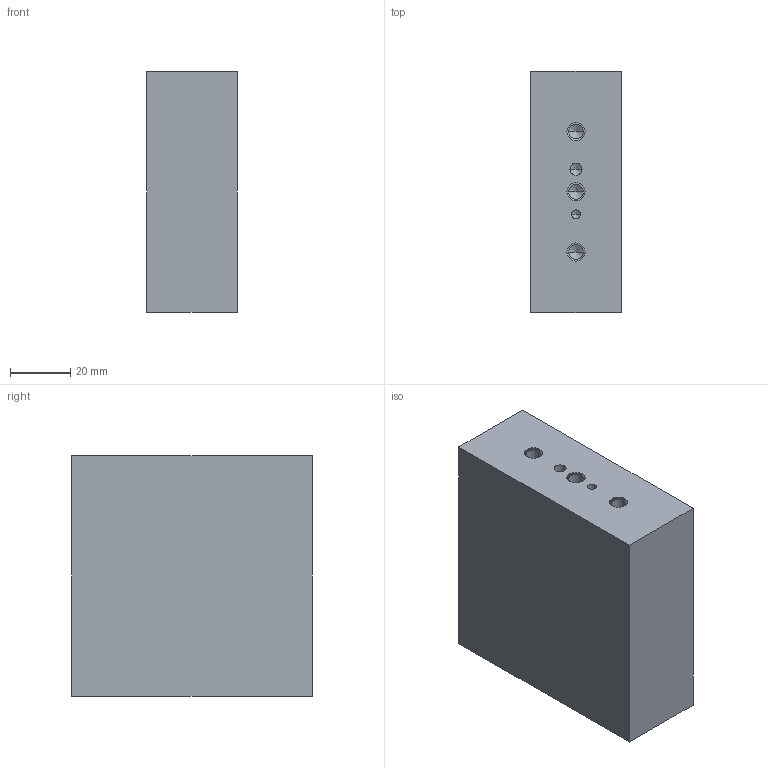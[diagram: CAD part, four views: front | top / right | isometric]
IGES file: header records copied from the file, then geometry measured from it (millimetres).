
Start section: 3D InterOp IGES (v. 2020 1.0.1), Spatial Corp. Copyright (c) 1999-2017.
Global section: file name: V92564_30_80_80.igs; native system: Spatial Corp.; preprocessor: 3D InterOp GENERIC/IGES 3.0; author: Noname; organization: Noname; date: 20201116.103515; units: metre
Bounding box: 30 x 80 x 80 mm (x, y, z)
Surface area: 23261.9 mm2 (no closed solid volume)
Topology: 0 solids, 0 shells, 41 faces, 174 edges, 164 vertices
Faces by surface type: revolution 32, extrusion 9
